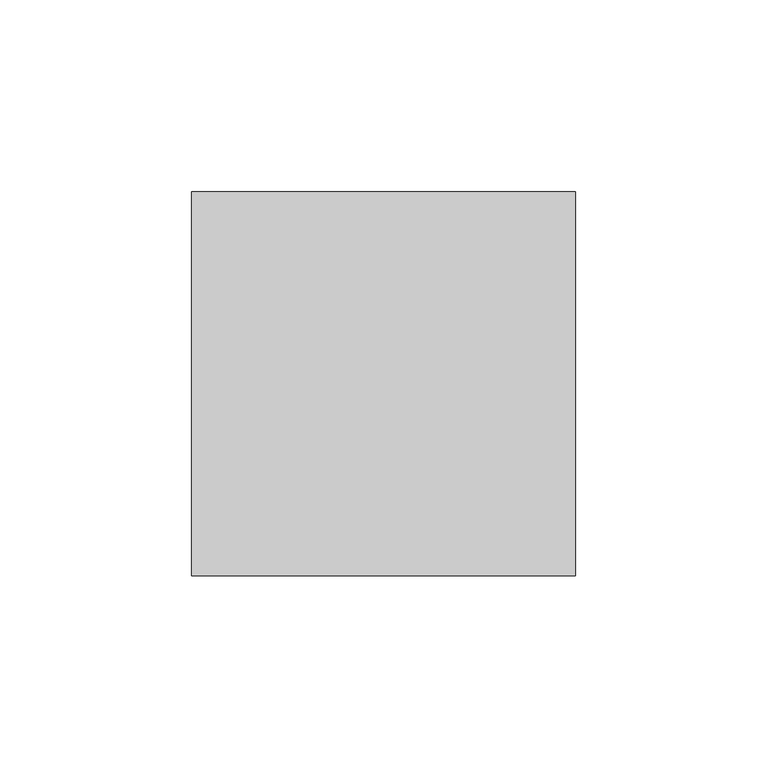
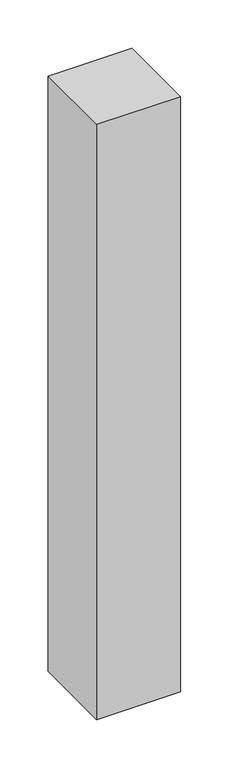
"""IFC4 building model written with IfcOpenShell, lengths in millimetres: proxy geometry, Брус : 100х100."""

from ifc_helpers import new_model, si_unit, origin, origin_with_axes, place, context, project, spatial, polyline, outline, extrude, source, transform, mapped, element, save


def generic_models_34f736ff(model_context):
    return source(origin(), model_context, "Body", "SweptSolid", [
        extrude(outline(polyline([(100.0, 0.0), (0.0, 0.0), (0.0, 100.0), (100.0, 100.0), (100.0, 0.0)])), origin_with_axes(), (0.0, 0.0, 1.0), 750.0),
    ])


if __name__ == "__main__":
    model = new_model("IFC4")
    model_context = context("Model", 3, world=origin())
    ifc_project = project(units=[si_unit("LENGTHUNIT", "METRE", prefix="MILLI")], contexts=[model_context])
    site = spatial("IfcSite", under=ifc_project)
    building = spatial("IfcBuilding", under=site)
    placement = place(None, origin())
    generic_models_shape = generic_models_34f736ff(model_context)
    element("IfcBuildingElementProxy", 1, Name="Брус : 100х100", ObjectType="Брус : 100х100", at=placement, inside=building, context=model_context, shape_type="MappedRepresentation", body=[
        mapped(generic_models_shape, transform((0.0, 0.0, 0.0), x_axis=(1.0, 0.0, 0.0), y_axis=(0.0, 1.0, 0.0), z_axis=(0.0, 0.0, 1.0))),
    ])
    save(model, "model.ifc")
